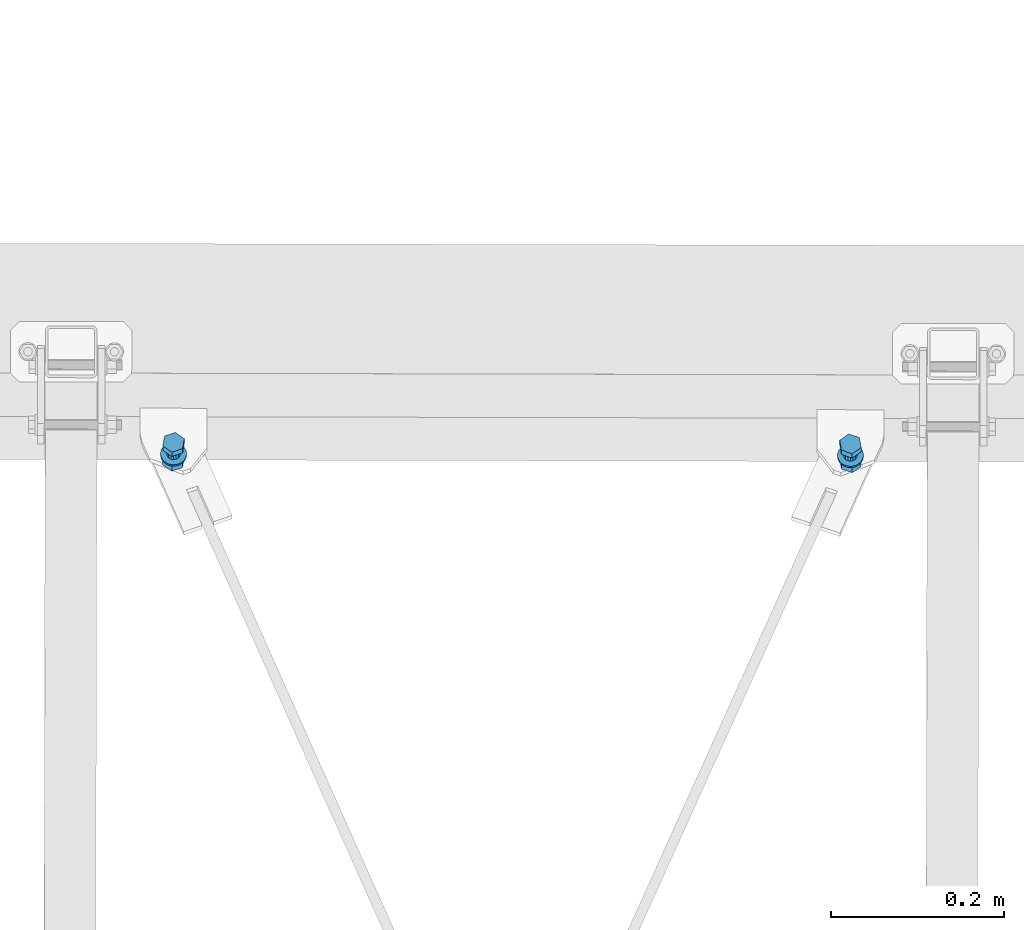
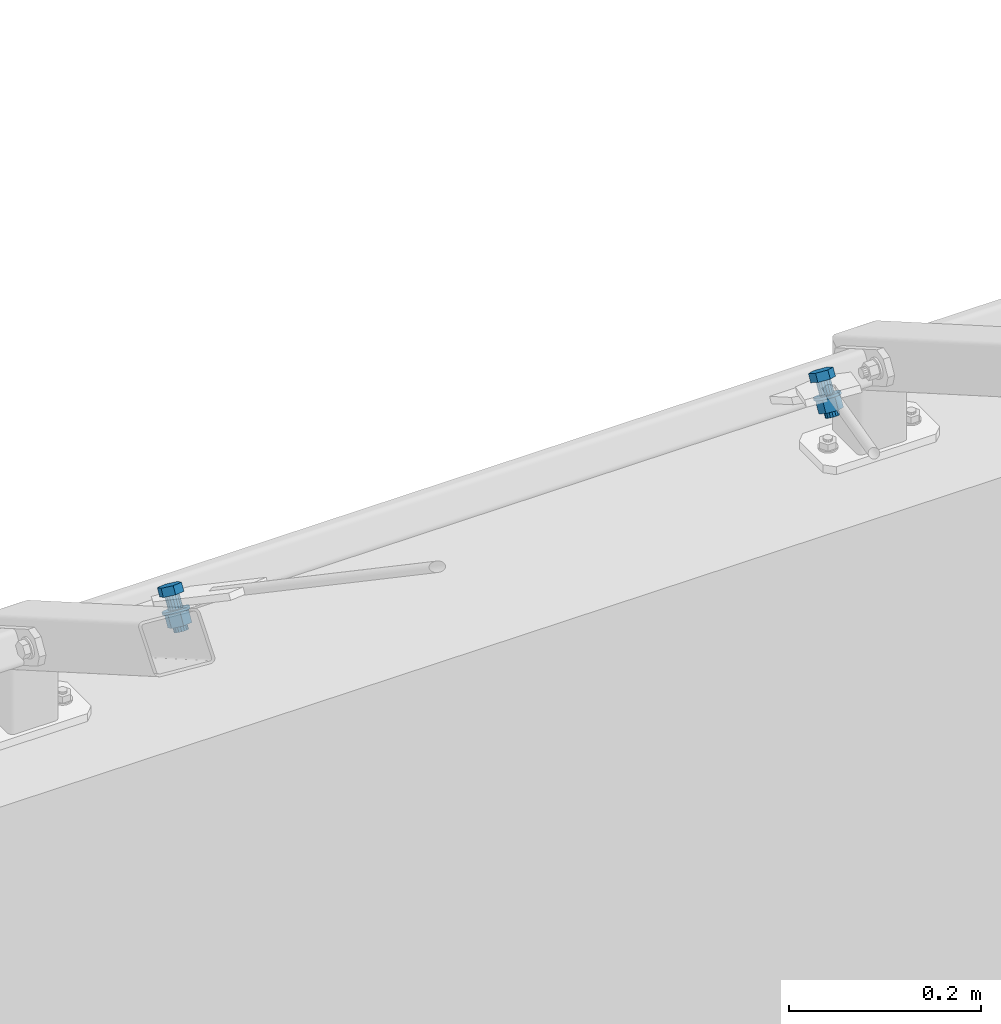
# One storey, part 210 of 288: 2 mechanical fasteners.
"""IFC2X3 building model written with IfcOpenShell, lengths in millimetres."""

from ifc_helpers import new_model, entity, si_unit, converted_unit, origin_with_axes, place, context, project, spatial, faceted_brep, element, save


model = new_model("IFC2X3")

# Units and contexts
model_context = context("Model", 3, precision=1e-09, world=origin_with_axes())
ifc_project = project(units=[si_unit("LENGTHUNIT", "METRE", prefix="MILLI"), si_unit("AREAUNIT", "SQUARE_METRE"), si_unit("VOLUMEUNIT", "CUBIC_METRE"), converted_unit("PLANEANGLEUNIT", "DEGREE", entity("IfcPlaneAngleMeasure", 0.01745329), si_unit("PLANEANGLEUNIT", "RADIAN"), dimensions=[0, 0, 0, 0, 0, 0, 0])], contexts=[model_context])

# Site, building, storey
site_placement = place(None, origin_with_axes())
site = spatial("IfcSite", under=ifc_project, at=site_placement, Name="Remont ?wietlik?w nad MC w NCPP w Opolu", CompositionType="ELEMENT")
building_placement = place(site_placement, origin_with_axes())
building = spatial("IfcBuilding", under=site, at=building_placement, Name="Konstrukcja 1", CompositionType="ELEMENT")
storey_placement = place(building_placement, origin_with_axes())
storey = spatial("IfcBuildingStorey", under=building, at=storey_placement, Name="Default Storey", CompositionType="ELEMENT", Elevation=0.0)

# Mechanical fasteners
mechanical_fastener_1_placement = place(None, origin_with_axes())
element("IfcMechanicalFastener", 1, at=mechanical_fastener_1_placement, inside=storey, ObjectType="Bolt#1", NominalDiameter=16.0, NominalLength=40.0, context=model_context, shape_type="Brep", body=[
    faceted_brep([(6891.596643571, 1752.568007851, 190.875495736), (6891.607915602, 1757.56799206, 199.535751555), (6889.600186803, 1769.020977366, 192.926002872), (6889.588914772, 1764.020993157, 184.265747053), (6900.048159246, 1776.246814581, 188.740578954), (6900.036887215, 1771.246830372, 180.080323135), (6912.503860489, 1772.01966649, 191.16490372), (6912.492588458, 1767.019682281, 182.504647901), (6914.511589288, 1760.566681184, 197.774652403), (6914.500317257, 1755.566696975, 189.114396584), (6904.063616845, 1753.340843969, 201.96007632), (6904.052344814, 1748.34085976, 193.299820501)], [[[0, 1, 2, 3]], [[3, 2, 4, 5]], [[5, 4, 6, 7]], [[7, 6, 8, 9]], [[9, 8, 10, 11]], [[11, 10, 1, 0]], [[4, 2, 1, 10, 8, 6]], [[0, 3, 5, 7, 9, 11]]]),
    faceted_brep([(6904.959293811, 1766.244221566, 182.962164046), (6904.941258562, 1758.244246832, 169.105754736), (6901.868347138, 1758.720813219, 168.834609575), (6901.886382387, 1766.720787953, 182.691018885), (6898.819525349, 1758.142815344, 169.172283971), (6898.837560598, 1766.142790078, 183.028693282), (6896.258948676, 1756.598248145, 170.06737006), (6896.276983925, 1764.598222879, 183.92377937), (6894.576441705, 1754.322257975, 171.383599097), (6894.594476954, 1762.322232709, 185.240008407), (6894.02815087, 1751.661343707, 172.920587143), (6894.046186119, 1759.661318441, 186.776996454), (6894.697548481, 1749.020605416, 174.444341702), (6894.715583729, 1757.02058015, 188.300751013), (6896.482724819, 1746.802071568, 175.722884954), (6896.500760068, 1754.802046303, 189.579294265), (6899.11190297, 1745.343493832, 176.56157028), (6899.129938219, 1753.343468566, 190.417979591), (6902.184814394, 1744.866927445, 176.832715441), (6902.202849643, 1752.866902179, 190.689124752), (6905.233636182, 1745.44492532, 176.495041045), (6905.251671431, 1753.444900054, 190.351450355), (6907.794212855, 1746.989492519, 175.599954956), (6907.812248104, 1754.989467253, 189.456364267), (6909.476719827, 1749.265482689, 174.283725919), (6909.494755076, 1757.265457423, 188.14013523), (6910.025010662, 1751.926396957, 172.746737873), (6910.043045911, 1759.926371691, 186.603147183), (6909.355613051, 1754.567135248, 171.222983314), (6909.3736483, 1762.567109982, 185.079392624), (6907.570436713, 1756.785669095, 169.944440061), (6907.588471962, 1764.78564383, 183.800849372)], [[[0, 1, 2, 3]], [[3, 2, 4, 5]], [[5, 4, 6, 7]], [[7, 6, 8, 9]], [[9, 8, 10, 11]], [[11, 10, 12, 13]], [[13, 12, 14, 15]], [[15, 14, 16, 17]], [[17, 16, 18, 19]], [[19, 18, 20, 21]], [[21, 20, 22, 23]], [[23, 22, 24, 25]], [[25, 24, 26, 27]], [[27, 26, 28, 29]], [[29, 28, 30, 31]], [[31, 30, 1, 0]], [[0, 3, 5, 7, 9, 11, 13, 15, 17, 19, 21, 23, 25, 27, 29, 31]], [[1, 30, 28, 26, 24, 22, 20, 18, 16, 14, 12, 10, 8, 6, 4, 2]]]),
    faceted_brep([(6907.491601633, 1763.888326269, 165.843835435), (6907.488220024, 1762.388331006, 163.245758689), (6904.657992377, 1763.080809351, 162.849641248), (6904.661373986, 1764.580804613, 165.447717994), (6901.726511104, 1763.281892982, 162.737361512), (6901.729892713, 1764.781888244, 165.335438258), (6898.806431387, 1762.983854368, 162.91323433), (6898.809812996, 1764.483849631, 165.511311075), (6896.009970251, 1762.198146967, 163.370501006), (6896.01335186, 1763.69814223, 165.968577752), (6893.444594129, 1760.954965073, 164.09158904), (6893.447975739, 1762.454960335, 166.689665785), (6891.208888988, 1759.302083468, 165.048787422), (6891.212270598, 1760.802078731, 167.646864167), (6889.388771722, 1757.303021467, 166.205311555), (6889.392153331, 1758.803016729, 168.803388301), (6888.054188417, 1755.0346019, 167.516716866), (6888.057570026, 1756.534597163, 170.114793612), (6887.256426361, 1752.58399886, 168.932606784), (6887.25980797, 1754.083994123, 171.53068353), (6887.026143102, 1750.045387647, 170.398569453), (6887.029524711, 1751.54538291, 172.996646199), (6887.372188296, 1747.516325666, 171.858268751), (6887.375569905, 1749.016320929, 174.456345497), (6888.281263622, 1745.094003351, 173.255609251), (6888.284645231, 1746.593998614, 175.853685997), (6889.718433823, 1742.87150919, 174.536891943), (6889.721815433, 1744.371504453, 177.134968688), (6891.628469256, 1740.934252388, 175.652877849), (6891.631850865, 1742.43424765, 178.250954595), (6893.93796833, 1739.356680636, 176.560680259), (6893.941349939, 1740.856675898, 179.158757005), (6896.558178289, 1738.199419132, 177.225412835), (6896.561559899, 1739.699414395, 179.823489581), (6899.388405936, 1737.506940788, 177.621530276), (6899.391787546, 1739.00693605, 180.219607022), (6902.319887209, 1737.305857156, 177.733810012), (6902.323268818, 1738.805852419, 180.331886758), (6905.239966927, 1737.60389577, 177.557937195), (6905.243348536, 1739.103891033, 180.15601394), (6908.036428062, 1738.389603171, 177.100670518), (6908.039809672, 1739.889598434, 179.698747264), (6910.601804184, 1739.632785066, 176.379582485), (6910.605185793, 1741.132780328, 178.97765923), (6912.837509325, 1741.28566667, 175.422384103), (6912.840890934, 1742.785661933, 178.020460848), (6914.657626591, 1743.284728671, 174.265859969), (6914.6610082, 1744.784723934, 176.863936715), (6915.992209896, 1745.553148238, 172.954454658), (6915.995591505, 1747.053143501, 175.552531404), (6916.789971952, 1748.003751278, 171.53856474), (6916.793353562, 1749.503746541, 174.136641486), (6917.020255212, 1750.542362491, 170.072602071), (6917.023636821, 1752.042357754, 172.670678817), (6916.674210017, 1753.071424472, 168.612902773), (6916.677591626, 1754.571419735, 171.210979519), (6915.765134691, 1755.493746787, 167.215562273), (6915.768516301, 1756.99374205, 169.813639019), (6914.32796449, 1757.716240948, 165.934279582), (6914.331346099, 1759.216236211, 168.532356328), (6912.417929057, 1759.653497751, 164.818293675), (6912.421310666, 1761.153493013, 167.416370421), (6910.108429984, 1761.231069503, 163.910491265), (6910.111811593, 1762.731064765, 166.508568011)], [[[0, 1, 2, 3]], [[3, 2, 4, 5]], [[5, 4, 6, 7]], [[7, 6, 8, 9]], [[9, 8, 10, 11]], [[11, 10, 12, 13]], [[13, 12, 14, 15]], [[15, 14, 16, 17]], [[17, 16, 18, 19]], [[19, 18, 20, 21]], [[21, 20, 22, 23]], [[23, 22, 24, 25]], [[25, 24, 26, 27]], [[27, 26, 28, 29]], [[29, 28, 30, 31]], [[31, 30, 32, 33]], [[33, 32, 34, 35]], [[35, 34, 36, 37]], [[37, 36, 38, 39]], [[39, 38, 40, 41]], [[41, 40, 42, 43]], [[43, 42, 44, 45]], [[45, 44, 46, 47]], [[47, 46, 48, 49]], [[49, 48, 50, 51]], [[51, 50, 52, 53]], [[53, 52, 54, 55]], [[55, 54, 56, 57]], [[57, 56, 58, 59]], [[59, 58, 60, 61]], [[61, 60, 62, 63]], [[63, 62, 1, 0]], [[0, 3, 5, 7, 9, 11, 13, 15, 17, 19, 21, 23, 25, 27, 29, 31, 33, 35, 37, 39, 41, 43, 45, 47, 49, 51, 53, 55, 57, 59, 61, 63]], [[1, 62, 60, 58, 56, 54, 52, 50, 48, 46, 44, 42, 40, 38, 36, 34, 32, 30, 28, 26, 24, 22, 20, 18, 16, 14, 12, 10, 8, 6, 4, 2]]]),
    faceted_brep([(6891.558544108, 1735.668061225, 161.603831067), (6891.575226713, 1743.068037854, 174.42100968), (6889.567497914, 1754.52102316, 167.811260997), (6889.550815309, 1747.121046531, 154.994082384), (6900.015470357, 1761.746860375, 163.625837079), (6899.998787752, 1754.346883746, 150.808658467), (6912.4711716, 1757.519712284, 166.050161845), (6912.454488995, 1750.119735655, 153.232983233), (6914.478900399, 1746.066726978, 172.659910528), (6914.462217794, 1738.666750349, 159.842731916), (6904.030927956, 1738.840889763, 176.845334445), (6904.014245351, 1731.440913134, 164.028155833)], [[[0, 1, 2, 3]], [[3, 2, 4, 5]], [[5, 4, 6, 7]], [[7, 6, 8, 9]], [[9, 8, 10, 11]], [[11, 10, 1, 0]], [[4, 2, 1, 10, 8, 6]], [[0, 3, 5, 7, 9, 11]]]),
    faceted_brep([(6904.921194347, 1749.34427494, 153.690499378), (6904.914205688, 1746.24428473, 148.32114077), (6901.841294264, 1746.720851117, 148.049995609), (6901.848282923, 1749.820841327, 153.419354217), (6898.792472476, 1746.142853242, 148.387670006), (6898.799461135, 1749.242843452, 153.757028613), (6896.231895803, 1744.598286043, 149.282756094), (6896.238884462, 1747.698276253, 154.652114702), (6894.549388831, 1742.322295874, 150.598985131), (6894.55637749, 1745.422286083, 155.968343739), (6894.001097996, 1739.661381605, 152.135973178), (6894.008086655, 1742.761371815, 157.505331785), (6894.670495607, 1737.020643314, 153.659727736), (6894.677484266, 1740.120633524, 159.029086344), (6896.455671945, 1734.802109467, 154.938270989), (6896.462660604, 1737.902099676, 160.307629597), (6899.084850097, 1733.343531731, 155.776956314), (6899.091838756, 1736.44352194, 161.146314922), (6902.15776152, 1732.866965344, 156.048101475), (6902.164750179, 1735.966955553, 161.417460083), (6905.206583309, 1733.444963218, 155.710427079), (6905.213571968, 1736.544953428, 161.079785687), (6907.767159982, 1734.989530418, 154.81534099), (6907.774148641, 1738.089520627, 160.184699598), (6909.449666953, 1737.265520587, 153.499111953), (6909.456655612, 1740.365510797, 158.868470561), (6909.997957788, 1739.926434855, 151.962123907), (6910.004946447, 1743.026425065, 157.331482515), (6909.328560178, 1742.567173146, 150.438369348), (6909.335548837, 1745.667163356, 155.807727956), (6907.543383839, 1744.785706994, 149.159826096), (6907.550372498, 1747.885697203, 154.529184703)], [[[0, 1, 2, 3]], [[3, 2, 4, 5]], [[5, 4, 6, 7]], [[7, 6, 8, 9]], [[9, 8, 10, 11]], [[11, 10, 12, 13]], [[13, 12, 14, 15]], [[15, 14, 16, 17]], [[17, 16, 18, 19]], [[19, 18, 20, 21]], [[21, 20, 22, 23]], [[23, 22, 24, 25]], [[25, 24, 26, 27]], [[27, 26, 28, 29]], [[29, 28, 30, 31]], [[31, 30, 1, 0]], [[0, 3, 5, 7, 9, 11, 13, 15, 17, 19, 21, 23, 25, 27, 29, 31]], [[1, 30, 28, 26, 24, 22, 20, 18, 16, 14, 12, 10, 8, 6, 4, 2]]]),
])
mechanical_fastener_2_placement = place(None, origin_with_axes())
element("IfcMechanicalFastener", 2, at=mechanical_fastener_2_placement, inside=storey, ObjectType="Bolt#1", NominalDiameter=16.0, NominalLength=40.0, context=model_context, shape_type="Brep", body=[
    faceted_brep([(6130.07579594, 1759.289223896, 199.533197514), (6130.064523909, 1754.289239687, 190.872941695), (6132.124048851, 1765.733032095, 184.263206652), (6132.135320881, 1770.733016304, 192.923462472), (6121.70887506, 1773.006024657, 180.077712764), (6121.72014709, 1778.006008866, 188.737968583), (6109.234176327, 1768.835224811, 182.501953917), (6109.245448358, 1773.83520902, 191.162209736), (6107.174651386, 1757.391432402, 189.11168896), (6107.185923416, 1762.391416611, 197.771944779), (6117.589825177, 1750.11843984, 193.297182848), (6117.601097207, 1755.118424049, 201.957438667)], [[[0, 1, 2, 3]], [[3, 2, 4, 5]], [[5, 4, 6, 7]], [[7, 6, 8, 9]], [[9, 8, 10, 11]], [[11, 10, 1, 0]], [[3, 5, 7, 9, 11, 0]], [[2, 1, 10, 8, 6, 4]]]),
    faceted_brep([(6116.745850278, 1760.025743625, 169.103111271), (6116.763885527, 1768.025718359, 182.959520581), (6119.838921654, 1768.488389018, 182.688396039), (6119.820886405, 1760.488414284, 168.831986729), (6122.885097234, 1767.896615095, 183.026090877), (6122.867061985, 1759.896640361, 169.169681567), (6125.438659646, 1766.340488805, 183.921194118), (6125.420624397, 1758.340514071, 170.064784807), (6127.110852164, 1764.056916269, 185.237434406), (6127.092816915, 1756.056941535, 171.381025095), (6127.647098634, 1761.393550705, 186.77442609), (6127.629063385, 1753.393575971, 172.918016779), (6126.965760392, 1758.755865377, 188.298176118), (6126.947725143, 1750.755890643, 174.441766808), (6125.170565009, 1756.545423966, 189.576707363), (6125.15252976, 1748.545449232, 175.720298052), (6122.534814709, 1755.098746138, 190.415375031), (6122.51677946, 1747.098771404, 176.55896572), (6119.459778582, 1754.636075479, 190.686499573), (6119.441743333, 1746.636100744, 176.830090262), (6116.413603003, 1755.227849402, 190.348804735), (6116.395567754, 1747.227874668, 176.492395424), (6113.86004059, 1756.783975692, 189.453701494), (6113.842005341, 1748.784000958, 175.597292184), (6112.187848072, 1759.067548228, 188.137461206), (6112.169812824, 1751.067573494, 174.281051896), (6111.651601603, 1761.730913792, 186.600469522), (6111.633566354, 1753.730939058, 172.744060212), (6112.332939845, 1764.36859912, 185.076719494), (6112.314904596, 1756.368624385, 171.220310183), (6114.128135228, 1766.579040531, 183.798188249), (6114.110099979, 1758.579065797, 169.941778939)], [[[0, 1, 2, 3]], [[3, 2, 4, 5]], [[5, 4, 6, 7]], [[7, 6, 8, 9]], [[9, 8, 10, 11]], [[11, 10, 12, 13]], [[13, 12, 14, 15]], [[15, 14, 16, 17]], [[17, 16, 18, 19]], [[19, 18, 20, 21]], [[21, 20, 22, 23]], [[23, 22, 24, 25]], [[25, 24, 26, 27]], [[27, 26, 28, 29]], [[29, 28, 30, 31]], [[31, 30, 1, 0]], [[2, 1, 30, 28, 26, 24, 22, 20, 18, 16, 14, 12, 10, 8, 6, 4]], [[31, 0, 3, 5, 7, 9, 11, 13, 15, 17, 19, 21, 23, 25, 27, 29]]]),
    faceted_brep([(6114.217687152, 1764.181298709, 163.243098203), (6114.221068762, 1765.681293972, 165.841174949), (6117.054400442, 1766.360971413, 165.445076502), (6117.051018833, 1764.860976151, 162.846999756), (6119.9867615, 1766.548801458, 165.332816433), (6119.983379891, 1765.048806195, 162.734739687), (6122.905462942, 1766.237565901, 165.508708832), (6122.902081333, 1764.737570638, 162.910632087), (6125.69834071, 1765.439225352, 165.965994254), (6125.694959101, 1763.939230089, 163.367917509), (6128.258066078, 1764.184459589, 166.687099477), (6128.254684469, 1762.684464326, 164.089022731), (6130.486270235, 1762.521488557, 167.64431283), (6130.482888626, 1761.021493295, 165.046236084), (6132.297324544, 1760.514219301, 168.800849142), (6132.293942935, 1759.014224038, 166.202772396), (6133.621631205, 1758.239790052, 170.11226337), (6133.618249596, 1756.73979479, 167.514186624), (6134.408297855, 1755.785605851, 171.528158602), (6134.404916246, 1754.285610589, 168.930081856), (6134.627093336, 1753.24597962, 172.994122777), (6134.623711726, 1751.745984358, 170.396046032), (6134.26960946, 1750.718507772, 174.453819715), (6134.26622785, 1749.218512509, 171.85574297), (6133.349584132, 1748.300319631, 175.851154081), (6133.346202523, 1746.800324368, 173.253077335), (6131.902373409, 1746.084344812, 177.132427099), (6131.8989918, 1744.584349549, 174.534350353), (6129.983592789, 1744.155741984, 178.248400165), (6129.98021118, 1742.655746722, 175.650323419), (6127.666979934, 1742.588626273, 179.156187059), (6127.663598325, 1741.088631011, 176.558110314), (6125.041560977, 1741.443221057, 179.820902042), (6125.038179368, 1739.943225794, 177.222825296), (6122.208229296, 1740.763543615, 180.217000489), (6122.204847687, 1739.263548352, 177.618923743), (6119.275868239, 1740.575713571, 180.329260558), (6119.27248663, 1739.075718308, 177.731183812), (6116.357166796, 1740.886949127, 180.153368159), (6116.353785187, 1739.386953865, 177.555291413), (6113.564289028, 1741.685289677, 179.696082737), (6113.560907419, 1740.185294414, 177.098005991), (6111.00456366, 1742.94005544, 178.974977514), (6111.001182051, 1741.440060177, 176.376900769), (6108.776359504, 1744.603026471, 178.017764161), (6108.772977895, 1743.103031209, 175.419687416), (6106.965305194, 1746.610295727, 176.861227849), (6106.961923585, 1745.110300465, 174.263151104), (6105.640998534, 1748.884724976, 175.549813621), (6105.637616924, 1747.384729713, 172.951736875), (6104.854331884, 1751.338909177, 174.133918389), (6104.850950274, 1749.838913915, 171.535841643), (6104.635536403, 1753.878535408, 172.667954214), (6104.632154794, 1752.378540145, 170.069877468), (6104.993020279, 1756.406007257, 171.208257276), (6104.98963867, 1754.906011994, 168.61018053), (6105.913045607, 1758.824195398, 169.81092291), (6105.909663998, 1757.324200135, 167.212846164), (6107.360256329, 1761.040170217, 168.529649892), (6107.35687472, 1759.540174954, 165.931573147), (6109.279036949, 1762.968773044, 167.413676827), (6109.27565534, 1761.468777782, 164.815600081), (6111.595649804, 1764.535888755, 166.505889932), (6111.592268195, 1763.035893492, 163.907813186)], [[[0, 1, 2, 3]], [[3, 2, 4, 5]], [[5, 4, 6, 7]], [[7, 6, 8, 9]], [[9, 8, 10, 11]], [[11, 10, 12, 13]], [[13, 12, 14, 15]], [[15, 14, 16, 17]], [[17, 16, 18, 19]], [[19, 18, 20, 21]], [[21, 20, 22, 23]], [[23, 22, 24, 25]], [[25, 24, 26, 27]], [[27, 26, 28, 29]], [[29, 28, 30, 31]], [[31, 30, 32, 33]], [[33, 32, 34, 35]], [[35, 34, 36, 37]], [[37, 36, 38, 39]], [[39, 38, 40, 41]], [[41, 40, 42, 43]], [[43, 42, 44, 45]], [[45, 44, 46, 47]], [[47, 46, 48, 49]], [[49, 48, 50, 51]], [[51, 50, 52, 53]], [[53, 52, 54, 55]], [[55, 54, 56, 57]], [[57, 56, 58, 59]], [[59, 58, 60, 61]], [[61, 60, 62, 63]], [[63, 62, 1, 0]], [[2, 1, 62, 60, 58, 56, 54, 52, 50, 48, 46, 44, 42, 40, 38, 36, 34, 32, 30, 28, 26, 24, 22, 20, 18, 16, 14, 12, 10, 8, 6, 4]], [[63, 0, 3, 5, 7, 9, 11, 13, 15, 17, 19, 21, 23, 25, 27, 29, 31, 33, 35, 37, 39, 41, 43, 45, 47, 49, 51, 53, 55, 57, 59, 61]]]),
    faceted_brep([(6130.043107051, 1744.78926969, 174.418455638), (6130.026424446, 1737.38929306, 161.601277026), (6132.085949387, 1748.833085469, 154.991541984), (6132.102631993, 1756.233062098, 167.808720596), (6121.670775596, 1756.106078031, 150.806048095), (6121.687458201, 1763.50605466, 163.623226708), (6109.196076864, 1751.935278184, 153.230289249), (6109.212759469, 1759.335254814, 166.047467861), (6107.136551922, 1740.491485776, 159.840024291), (6107.153234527, 1747.891462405, 172.657202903), (6117.551725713, 1733.218493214, 164.02551818), (6117.568408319, 1740.618469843, 176.842696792)], [[[0, 1, 2, 3]], [[3, 2, 4, 5]], [[5, 4, 6, 7]], [[7, 6, 8, 9]], [[9, 8, 10, 11]], [[11, 10, 1, 0]], [[3, 5, 7, 9, 11, 0]], [[2, 1, 10, 8, 6, 4]]]),
    faceted_brep([(6116.718797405, 1748.025781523, 148.318497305), (6116.725786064, 1751.125771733, 153.687855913), (6119.800822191, 1751.588442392, 153.416731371), (6119.793833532, 1748.488452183, 148.047372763), (6122.84699777, 1750.996668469, 153.754426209), (6122.840009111, 1747.896678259, 148.385067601), (6125.400560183, 1749.440542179, 154.649529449), (6125.393571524, 1746.340551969, 149.280170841), (6127.0727527, 1747.156969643, 155.965769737), (6127.065764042, 1744.056979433, 150.59641113), (6127.60899917, 1744.493604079, 157.502761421), (6127.602010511, 1741.393613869, 152.133402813), (6126.927660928, 1741.855918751, 159.02651145), (6126.920672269, 1738.755928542, 153.657152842), (6125.132465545, 1739.64547734, 160.305042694), (6125.125476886, 1736.54548713, 154.935684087), (6122.496715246, 1738.198799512, 161.143710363), (6122.489726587, 1735.098809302, 155.774351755), (6119.421679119, 1737.736128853, 161.414834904), (6119.41469046, 1734.636138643, 156.045476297), (6116.375503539, 1738.327902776, 161.077140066), (6116.36851488, 1735.227912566, 155.707781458), (6113.821941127, 1739.884029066, 160.182036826), (6113.814952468, 1736.784038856, 154.812678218), (6112.149748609, 1742.167601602, 158.865796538), (6112.14275995, 1739.067611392, 153.49643793), (6111.613502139, 1744.830967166, 157.328804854), (6111.60651348, 1741.730976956, 151.959446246), (6112.294840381, 1747.468652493, 155.805054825), (6112.287851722, 1744.368662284, 150.435696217), (6114.090035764, 1749.679093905, 154.526523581), (6114.083047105, 1746.579103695, 149.157164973)], [[[0, 1, 2, 3]], [[3, 2, 4, 5]], [[5, 4, 6, 7]], [[7, 6, 8, 9]], [[9, 8, 10, 11]], [[11, 10, 12, 13]], [[13, 12, 14, 15]], [[15, 14, 16, 17]], [[17, 16, 18, 19]], [[19, 18, 20, 21]], [[21, 20, 22, 23]], [[23, 22, 24, 25]], [[25, 24, 26, 27]], [[27, 26, 28, 29]], [[29, 28, 30, 31]], [[31, 30, 1, 0]], [[2, 1, 30, 28, 26, 24, 22, 20, 18, 16, 14, 12, 10, 8, 6, 4]], [[31, 0, 3, 5, 7, 9, 11, 13, 15, 17, 19, 21, 23, 25, 27, 29]]]),
])

save(model, "model.ifc")
